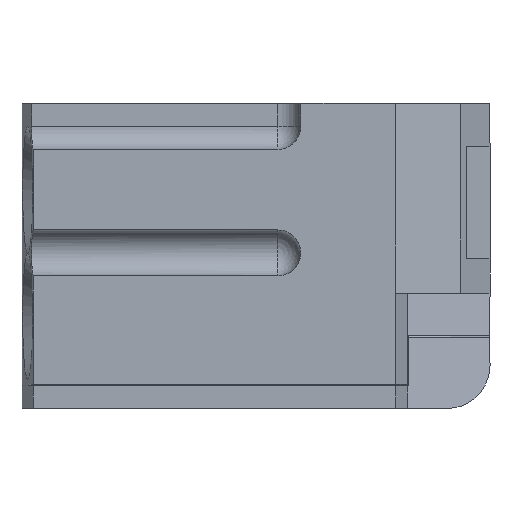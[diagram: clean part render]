
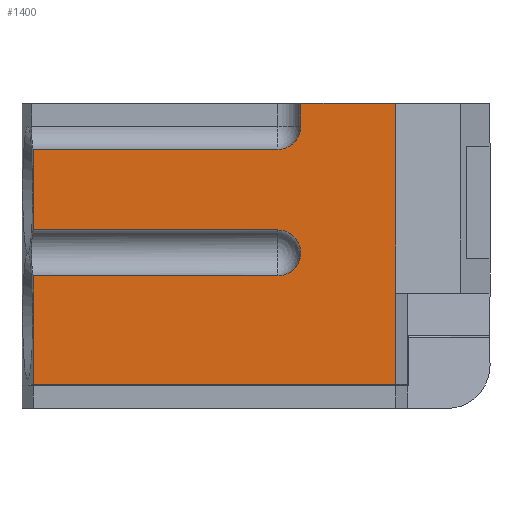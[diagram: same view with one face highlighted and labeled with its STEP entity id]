
A CAD part, top view. The second image highlights one B-rep face of the part: STEP entity #1400.
In plain terms, the highlighted planar face has unit normal (0, 0, 1).
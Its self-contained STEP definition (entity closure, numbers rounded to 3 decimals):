
#29=CIRCLE('',#1479,0.8);
#30=CIRCLE('',#1480,0.8);
#159=ORIENTED_EDGE('',*,*,#368,.F.);
#160=ORIENTED_EDGE('',*,*,#361,.T.);
#161=ORIENTED_EDGE('',*,*,#422,.T.);
#162=ORIENTED_EDGE('',*,*,#423,.F.);
#163=ORIENTED_EDGE('',*,*,#424,.F.);
#164=ORIENTED_EDGE('',*,*,#425,.T.);
#165=ORIENTED_EDGE('',*,*,#426,.F.);
#166=ORIENTED_EDGE('',*,*,#416,.T.);
#167=ORIENTED_EDGE('',*,*,#427,.F.);
#168=ORIENTED_EDGE('',*,*,#428,.T.);
#169=ORIENTED_EDGE('',*,*,#429,.F.);
#170=ORIENTED_EDGE('',*,*,#414,.T.);
#361=EDGE_CURVE('',#494,#498,#579,.T.);
#368=EDGE_CURVE('',#494,#504,#585,.F.);
#414=EDGE_CURVE('',#537,#504,#626,.T.);
#416=EDGE_CURVE('',#539,#538,#627,.T.);
#422=EDGE_CURVE('',#498,#543,#630,.T.);
#423=EDGE_CURVE('',#544,#543,#631,.T.);
#424=EDGE_CURVE('',#545,#544,#632,.T.);
#425=EDGE_CURVE('',#545,#546,#29,.T.);
#426=EDGE_CURVE('',#539,#546,#633,.F.);
#427=EDGE_CURVE('',#547,#538,#634,.T.);
#428=EDGE_CURVE('',#547,#548,#30,.T.);
#429=EDGE_CURVE('',#537,#548,#635,.F.);
#494=VERTEX_POINT('',#1850);
#498=VERTEX_POINT('',#1858);
#504=VERTEX_POINT('',#1874);
#537=VERTEX_POINT('',#1966);
#538=VERTEX_POINT('',#1968);
#539=VERTEX_POINT('',#1970);
#543=VERTEX_POINT('',#1981);
#544=VERTEX_POINT('',#1983);
#545=VERTEX_POINT('',#1985);
#546=VERTEX_POINT('',#1987);
#547=VERTEX_POINT('',#1990);
#548=VERTEX_POINT('',#1992);
#579=LINE('',#1859,#681);
#585=LINE('',#1873,#687);
#626=LINE('',#1965,#728);
#627=LINE('',#1969,#729);
#630=LINE('',#1980,#732);
#631=LINE('',#1982,#733);
#632=LINE('',#1984,#734);
#633=LINE('',#1988,#735);
#634=LINE('',#1989,#736);
#635=LINE('',#1993,#737);
#681=VECTOR('',#1558,1000.);
#687=VECTOR('',#1570,1000.);
#728=VECTOR('',#1647,1000.);
#729=VECTOR('',#1650,1000.);
#732=VECTOR('',#1661,1000.);
#733=VECTOR('',#1662,1000.);
#734=VECTOR('',#1663,1000.);
#735=VECTOR('',#1666,1000.);
#736=VECTOR('',#1667,1000.);
#737=VECTOR('',#1670,1000.);
#796=EDGE_LOOP('',(#159,#160,#161,#162,#163,#164,#165,#166,#167,#168,#169,
#170));
#863=FACE_BOUND('',#796,.T.);
#926=PLANE('',#1478);
#1400=ADVANCED_FACE('',(#863),#926,.F.);
#1478=AXIS2_PLACEMENT_3D('',#1979,#1659,#1660);
#1479=AXIS2_PLACEMENT_3D('',#1986,#1664,#1665);
#1480=AXIS2_PLACEMENT_3D('',#1991,#1668,#1669);
#1558=DIRECTION('',(0.,1.,0.));
#1570=DIRECTION('',(1.,0.,0.));
#1647=DIRECTION('',(0.,-1.,0.));
#1650=DIRECTION('',(0.,-1.,0.));
#1659=DIRECTION('',(0.,0.,-1.));
#1660=DIRECTION('',(-1.,0.,0.));
#1661=DIRECTION('',(0.,1.,0.));
#1662=DIRECTION('',(1.,0.,0.));
#1663=DIRECTION('',(0.,1.,0.));
#1664=DIRECTION('',(0.,0.,-1.));
#1665=DIRECTION('',(-1.,0.,0.));
#1666=DIRECTION('',(-1.,0.,0.));
#1667=DIRECTION('',(-1.,0.,0.));
#1668=DIRECTION('',(0.,0.,-1.));
#1669=DIRECTION('',(-1.,0.,0.));
#1670=DIRECTION('',(-1.,0.,0.));
#1850=CARTESIAN_POINT('',(4.9,0.825,3.75));
#1858=CARTESIAN_POINT('',(4.9,4.,3.75));
#1859=CARTESIAN_POINT('',(4.9,10.6,3.75));
#1873=CARTESIAN_POINT('',(-7.7,0.825,3.75));
#1874=CARTESIAN_POINT('',(-7.7,0.825,3.75));
#1965=CARTESIAN_POINT('',(-7.7,13.398,3.75));
#1966=CARTESIAN_POINT('',(-7.7,4.6,3.75));
#1968=CARTESIAN_POINT('',(-7.7,6.2,3.75));
#1969=CARTESIAN_POINT('',(-7.7,13.398,3.75));
#1970=CARTESIAN_POINT('',(-7.7,9.,3.75));
#1979=CARTESIAN_POINT('',(-8.1,10.6,3.75));
#1980=CARTESIAN_POINT('',(4.9,10.6,3.75));
#1981=CARTESIAN_POINT('',(4.9,10.6,3.75));
#1982=CARTESIAN_POINT('',(-8.1,10.6,3.75));
#1983=CARTESIAN_POINT('',(1.6,10.6,3.75));
#1984=CARTESIAN_POINT('',(1.6,9.8,3.75));
#1985=CARTESIAN_POINT('',(1.6,9.8,3.75));
#1986=CARTESIAN_POINT('',(0.8,9.8,3.75));
#1987=CARTESIAN_POINT('',(0.8,9.,3.75));
#1988=CARTESIAN_POINT('',(0.8,9.,3.75));
#1989=CARTESIAN_POINT('',(0.8,6.2,3.75));
#1990=CARTESIAN_POINT('',(0.8,6.2,3.75));
#1991=CARTESIAN_POINT('',(0.8,5.4,3.75));
#1992=CARTESIAN_POINT('',(0.8,4.6,3.75));
#1993=CARTESIAN_POINT('',(0.8,4.6,3.75));
